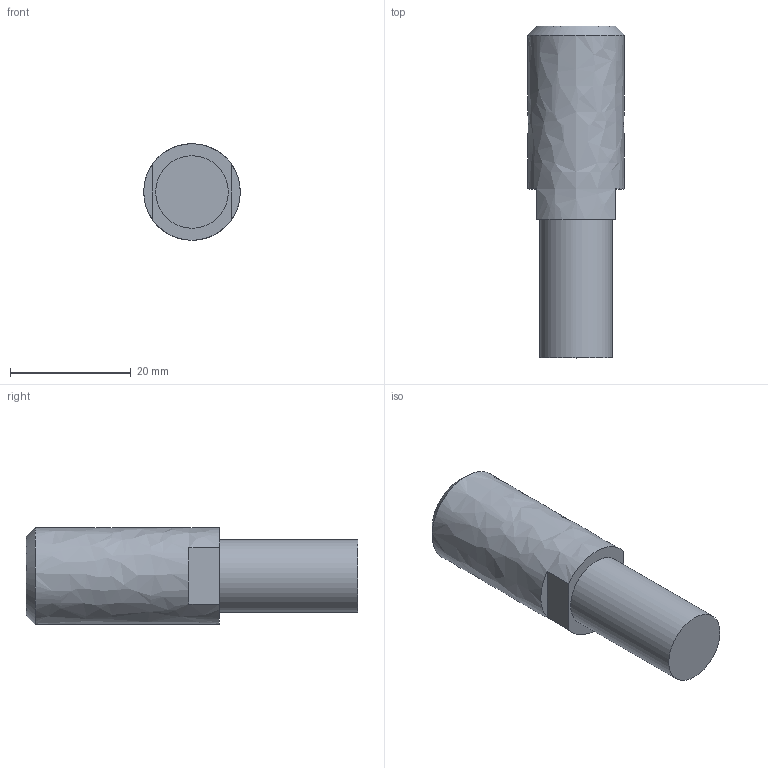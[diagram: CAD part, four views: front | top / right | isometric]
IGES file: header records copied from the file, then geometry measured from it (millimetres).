
Global section: file name: 1325_063_17F; native system: Autodesk Inventor 2014; preprocessor: unknown; author: A. Manieri; organization: Pneumax S.p.A.; date: 20161007.094015; units: millimetre
Bounding box: 16 x 55 x 16 mm (x, y, z)
Volume: 8887.8 mm3; surface area: 2824.6 mm2
Topology: 1 solids, 1 shells, 10 faces, 23 edges, 16 vertices
Faces by surface type: bspline 10
